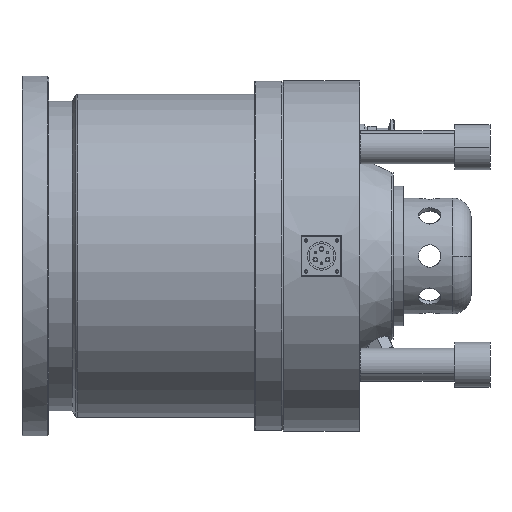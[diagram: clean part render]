
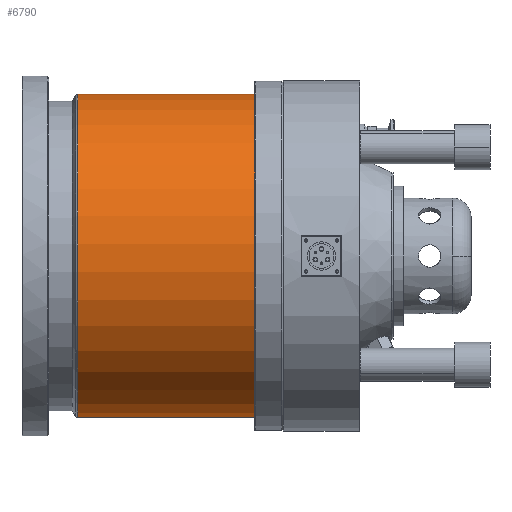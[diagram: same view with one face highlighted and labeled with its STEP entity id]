
A CAD part, left-side view. The second image highlights one B-rep face of the part: STEP entity #6790.
In plain terms, the highlighted cylindrical face has radius 137 mm (diameter 274 mm), a partial arc.
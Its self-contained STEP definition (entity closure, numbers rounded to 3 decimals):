
#278 = VERTEX_POINT ( 'NONE', #43772 ) ;
#2041 = DIRECTION ( 'NONE',  ( 0., 0., 1. ) ) ;
#2150 = CARTESIAN_POINT ( 'NONE',  ( -34.532, 0., 0. ) ) ;
#2218 = DIRECTION ( 'NONE',  ( -1., 0., 0. ) ) ;
#4811 = CARTESIAN_POINT ( 'NONE',  ( 48.53, 0., -137. ) ) ;
#6790 = ADVANCED_FACE ( 'NONE', ( #21382 ), #21471, .T. ) ;
#7683 = AXIS2_PLACEMENT_3D ( 'NONE', #20471, #20460, #20409 ) ;
#12681 = AXIS2_PLACEMENT_3D ( 'NONE', #38217, #38146, #38037 ) ;
#15212 = VECTOR ( 'NONE', #21472, 1000. ) ;
#15259 = LINE ( 'NONE', #18287, #20589 ) ;
#15645 = ORIENTED_EDGE ( 'NONE', *, *, #43329, .F. ) ;
#17324 = VERTEX_POINT ( 'NONE', #44690 ) ;
#17936 = ORIENTED_EDGE ( 'NONE', *, *, #41055, .T. ) ;
#18252 = DIRECTION ( 'NONE',  ( -1., 0., 0. ) ) ;
#18287 = CARTESIAN_POINT ( 'NONE',  ( -34.532, 0., 137. ) ) ;
#20409 = DIRECTION ( 'NONE',  ( 0., 0., 1. ) ) ;
#20460 = DIRECTION ( 'NONE',  ( 1., 0., 0. ) ) ;
#20471 = CARTESIAN_POINT ( 'NONE',  ( 48.53, 0., 0. ) ) ;
#20519 = CARTESIAN_POINT ( 'NONE',  ( -34.532, 0., -137. ) ) ;
#20589 = VECTOR ( 'NONE', #18252, 1000. ) ;
#20851 = EDGE_LOOP ( 'NONE', ( #15645, #35588, #34917, #17936 ) ) ;
#21108 = CARTESIAN_POINT ( 'NONE',  ( 198.302, 0., -137. ) ) ;
#21382 = FACE_OUTER_BOUND ( 'NONE', #20851, .T. ) ;
#21407 = LINE ( 'NONE', #20519, #15212 ) ;
#21471 = CYLINDRICAL_SURFACE ( 'NONE', #31232, 137. ) ;
#21472 = DIRECTION ( 'NONE',  ( -1., 0., 0. ) ) ;
#22361 = EDGE_CURVE ( 'NONE', #31117, #17324, #41510, .T. ) ;
#25857 = CIRCLE ( 'NONE', #7683, 137. ) ;
#31117 = VERTEX_POINT ( 'NONE', #21108 ) ;
#31232 = AXIS2_PLACEMENT_3D ( 'NONE', #2150, #2218, #2041 ) ;
#34917 = ORIENTED_EDGE ( 'NONE', *, *, #43385, .T. ) ;
#35214 = VERTEX_POINT ( 'NONE', #4811 ) ;
#35588 = ORIENTED_EDGE ( 'NONE', *, *, #22361, .T. ) ;
#38037 = DIRECTION ( 'NONE',  ( 0., 0., 1. ) ) ;
#38146 = DIRECTION ( 'NONE',  ( -1., 0., 0. ) ) ;
#38217 = CARTESIAN_POINT ( 'NONE',  ( 198.302, 0., 0. ) ) ;
#41055 = EDGE_CURVE ( 'NONE', #278, #35214, #25857, .T. ) ;
#41510 = CIRCLE ( 'NONE', #12681, 137. ) ;
#43329 = EDGE_CURVE ( 'NONE', #31117, #35214, #21407, .T. ) ;
#43385 = EDGE_CURVE ( 'NONE', #17324, #278, #15259, .T. ) ;
#43772 = CARTESIAN_POINT ( 'NONE',  ( 48.53, 0., 137. ) ) ;
#44690 = CARTESIAN_POINT ( 'NONE',  ( 198.302, 0., 137. ) ) ;
